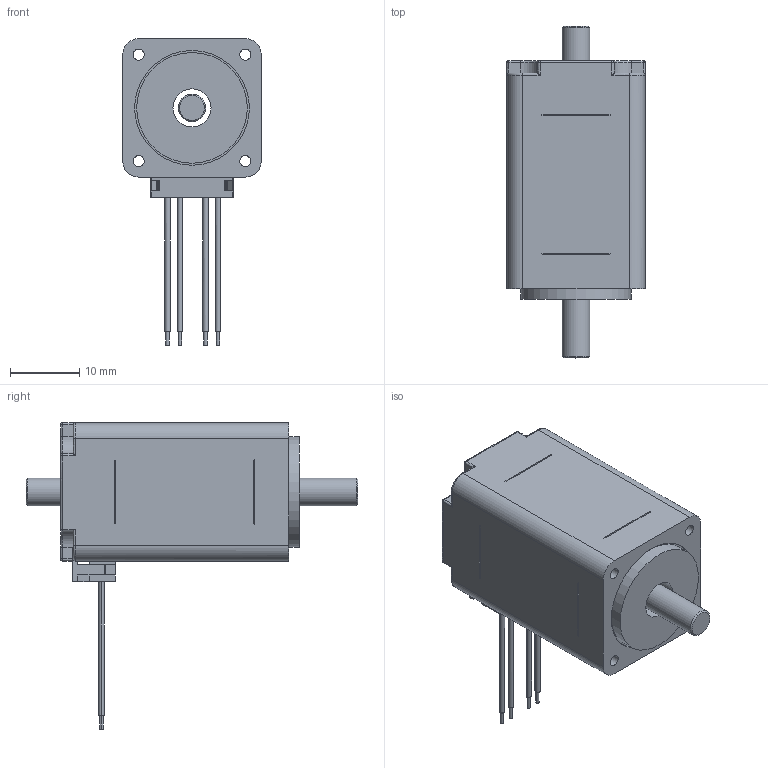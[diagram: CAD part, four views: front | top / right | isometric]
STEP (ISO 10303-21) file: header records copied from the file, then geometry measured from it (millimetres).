
FILE_DESCRIPTION( ('This file contains a STEP AP42 implementation' ,'as created by ZW3D STEP Interface translator.' ,'') ,'2;1' );
FILE_NAME( '20H33H-0604B-XXX.stp' ,'26 119.172538', (''), ('ZWCAD Software Co.'), 'Version 1.0', 'ZW3D to STEP translator', '' );
FILE_SCHEMA(('AUTOMOTIVE_DESIGN { 1 0 10303 214 1 1 1 1 }'));
Length unit declared in the file: millimetre
Products named in the file (1): 0
Bounding box: 20 x 48 x 44.32 mm (x, y, z)
Volume: 7685.8 mm3; surface area: 10833.2 mm2
Topology: 2 solids, 2 shells, 962 faces, 3047 edges, 1982 vertices
Faces by surface type: plane 618, cylinder 297, bspline 44, cone 3
Full cylindrical faces by diameter (mm): 0.67 x8, 1.6 x4, 2.2 x4, 4 x1, 5.5 x2, 7 x1, 9 x3, 12.24 x1, 12.5 x1, 16 x1, 16.6 x1
Entity records: 36667 total; most frequent: CARTESIAN_POINT 8454, ORIENTED_EDGE 6080, DIRECTION 5383, EDGE_CURVE 3040, VECTOR 2091, LINE 2091, VERTEX_POINT 1982, AXIS2_PLACEMENT_3D 1646
